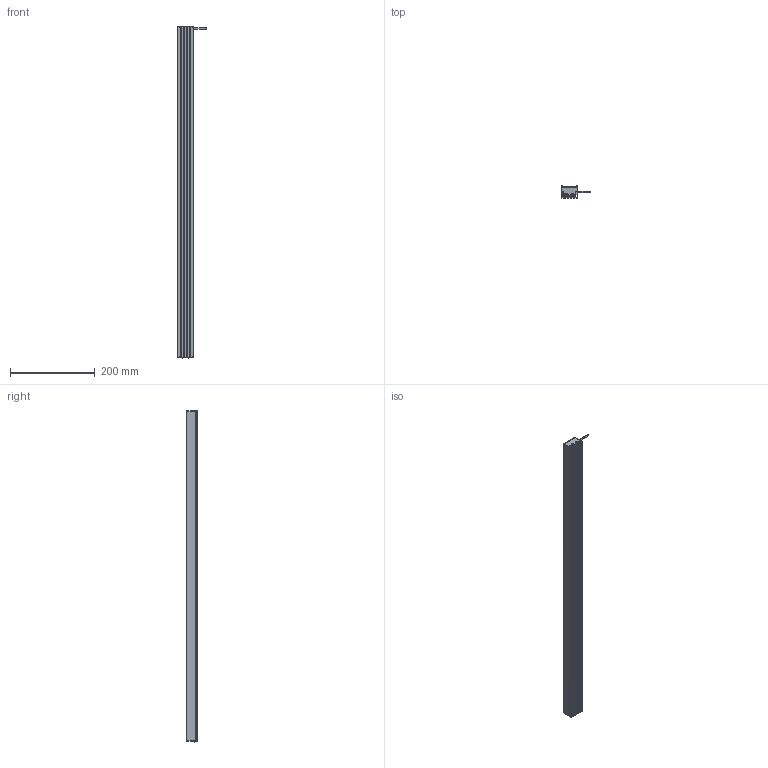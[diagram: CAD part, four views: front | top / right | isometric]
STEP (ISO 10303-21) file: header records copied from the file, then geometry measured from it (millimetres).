
FILE_DESCRIPTION((''),'2;1');
FILE_NAME('MV-LLDS-777-38_ASM','2020-12-31T',('Administrator'),(''),'PRO/ENGINEER BY PARAMETRIC TECHNOLOGY CORPORATION, 2010100','PRO/ENGINEER BY PARAMETRIC TECHNOLOGY CORPORATION, 2010100','');
FILE_SCHEMA(('CONFIG_CONTROL_DESIGN'));
Length unit declared in the file: millimetre
Products named in the file (4): DB_1; M3_1; SRZ_ASM_1_ASM; MV-LLDS-777-38_ASM
Assembly tree (6 placements, depth 3):
  MV-LLDS-777-38_ASM
    SRZ_ASM_1_ASM
      DB_1
      M3_1  x4
Bounding box: 68 x 27 x 781.68 mm (x, y, z)
Volume: 303260.7 mm3; surface area: 261787.6 mm2
Topology: 5 solids, 14 shells, 379 faces, 1043 edges, 685 vertices
Faces by surface type: plane 241, cylinder 90, cone 16, bspline 16, torus 8, sphere 8
Entity records: 9400 total; most frequent: CARTESIAN_POINT 1922, ORIENTED_EDGE 1544, DIRECTION 1523, EDGE_CURVE 782, VECTOR 569, LINE 569, VERTEX_POINT 520, AXIS2_PLACEMENT_3D 477
